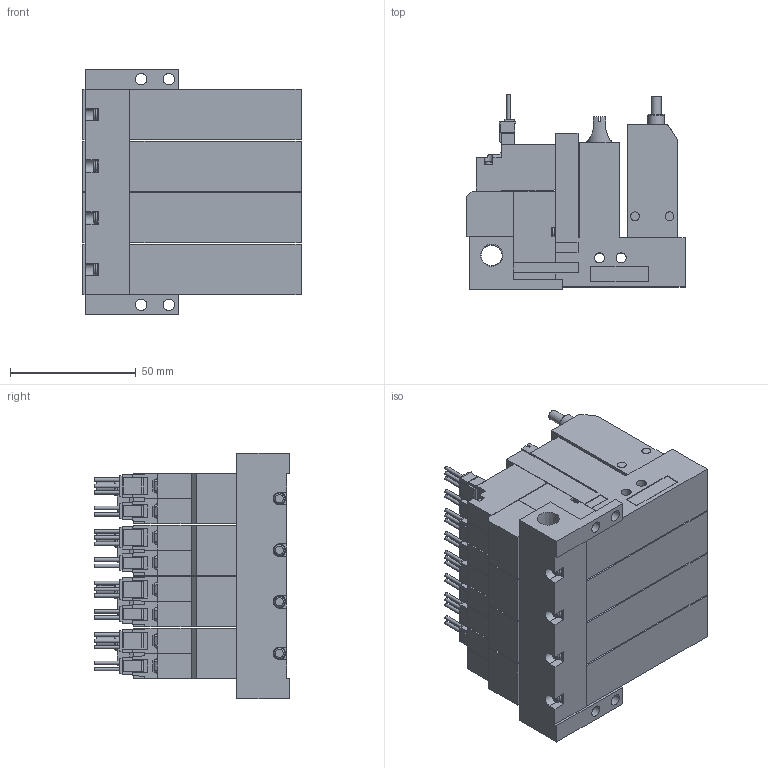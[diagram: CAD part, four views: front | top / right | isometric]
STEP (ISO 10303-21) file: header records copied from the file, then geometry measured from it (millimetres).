
FILE_DESCRIPTION(('STEP AP203'),'1');
FILE_NAME('ABS_ABPL5WLR404.stp','2025-02-18T23:34:37',(' '),(' '),'Spatial InterOp 3D',' ',' ');
FILE_SCHEMA(('CONFIG_CONTROL_DESIGN'));
Length unit declared in the file: millimetre
Products named in the file (5): BMC22M※※※※ABS_ABPL5WLR404; Solenoid valve W; Pressure sensor ABSL; Unit L; Base MR40R
Assembly tree (13 placements, depth 2):
  BMC22M※※※※ABS_ABPL5WLR404
    Solenoid valve W  x4
    Pressure sensor ABSL  x4
    Unit L  x4
    Base MR40R
Bounding box: 86.6 x 77.45 x 97.5 mm (x, y, z)
Volume: 362401.7 mm3; surface area: 101157.7 mm2
Topology: 13 solids, 13 shells, 1445 faces, 3871 edges, 2556 vertices
Faces by surface type: plane 1222, cylinder 177, cone 30, torus 16
Full cylindrical faces by diameter (mm): 1.4 x20, 2.5 x4, 3 x16, 3.5 x24, 3.6 x4, 4 x12, 4.134 x4, 4.5 x4, 5.2 x4, 6 x4, 6.5 x4, 6.6 x4, 8.279 x1
Entity records: 13142 total; most frequent: CARTESIAN_POINT 2469, DIRECTION 2092, ORIENTED_EDGE 2066, EDGE_CURVE 1033, LINE 842, VECTOR 842, VERTEX_POINT 722, AXIS2_PLACEMENT_3D 625
